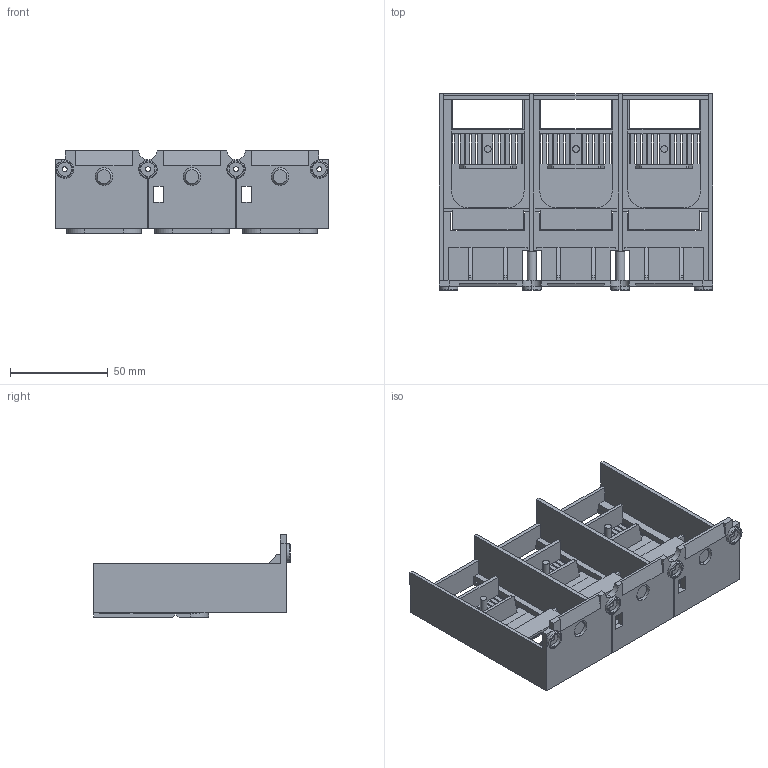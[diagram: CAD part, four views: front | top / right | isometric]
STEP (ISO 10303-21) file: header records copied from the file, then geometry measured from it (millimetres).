
FILE_DESCRIPTION (( 'STEP AP203' ), '1' );
FILE_NAME ('Êðûøêà êëåììíàÿ ÃÆÈÊ.735384.100.STEP', '2017-01-10T06:20:59', ( '1' ), ( '' ), 'SwSTEP 2.0', 'SolidWorks 2012', '' );
FILE_SCHEMA (( 'CONFIG_CONTROL_DESIGN' ));
Length unit declared in the file: millimetre
Products named in the file (1): Êðûøêà êëåììíàÿ ÃÆÈÊ.735384.100
Bounding box: 139.6 x 100.5 x 42.3 mm (x, y, z)
Volume: 67978.1 mm3; surface area: 73044.4 mm2
Topology: 1 solids, 1 shells, 500 faces, 1440 edges, 950 vertices
Faces by surface type: plane 410, cylinder 76, torus 8, cone 6
Entity records: 16469 total; most frequent: CARTESIAN_POINT 2891, ORIENTED_EDGE 2880, DIRECTION 2622, EDGE_CURVE 1440, VECTOR 1260, LINE 1260, VERTEX_POINT 950, AXIS2_PLACEMENT_3D 681
